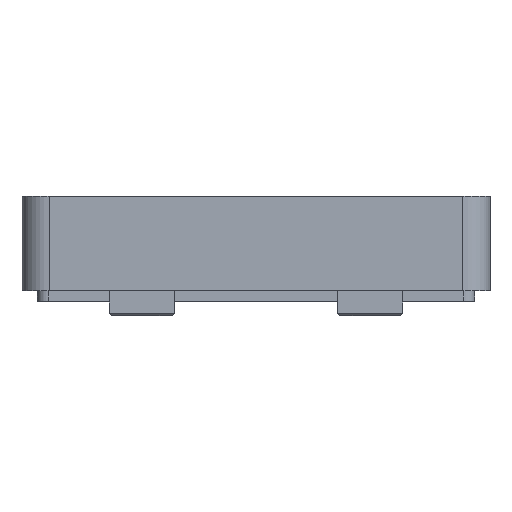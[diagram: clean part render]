
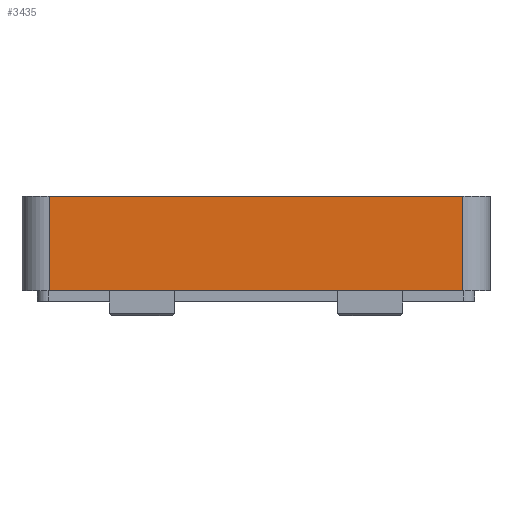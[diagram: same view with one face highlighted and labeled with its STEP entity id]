
A CAD part, front view. The second image highlights one B-rep face of the part: STEP entity #3435.
In plain terms, the highlighted planar face has unit normal (0, -1, 0).
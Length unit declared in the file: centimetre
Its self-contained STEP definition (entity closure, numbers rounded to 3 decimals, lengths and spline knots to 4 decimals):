
#448=FACE_OUTER_BOUND('',#652,.T.);
#652=EDGE_LOOP('',(#3115,#3116,#3117,#3118));
#717=LINE('',#4949,#1050);
#983=LINE('',#6053,#1316);
#990=LINE('',#6075,#1323);
#991=LINE('',#6077,#1324);
#1050=VECTOR('',#3899,1.);
#1316=VECTOR('',#4781,1.);
#1323=VECTOR('',#4812,1.);
#1324=VECTOR('',#4815,1.);
#1373=VERTEX_POINT('',#4946);
#1374=VERTEX_POINT('',#4948);
#1646=VERTEX_POINT('',#6052);
#1649=VERTEX_POINT('',#6073);
#1713=EDGE_CURVE('',#1374,#1373,#717,.T.);
#2132=EDGE_CURVE('',#1374,#1646,#983,.T.);
#2142=EDGE_CURVE('',#1373,#1649,#990,.T.);
#2143=EDGE_CURVE('',#1646,#1649,#991,.T.);
#3115=ORIENTED_EDGE('',*,*,#2142,.T.);
#3116=ORIENTED_EDGE('',*,*,#2143,.F.);
#3117=ORIENTED_EDGE('',*,*,#2132,.F.);
#3118=ORIENTED_EDGE('',*,*,#1713,.T.);
#3250=PLANE('',#3793);
#3435=ADVANCED_FACE('',(#448),#3250,.T.);
#3793=AXIS2_PLACEMENT_3D('',#6076,#4813,#4814);
#3899=DIRECTION('',(1.,0.,0.));
#4781=DIRECTION('',(0.,0.,1.));
#4812=DIRECTION('',(0.,0.,1.));
#4813=DIRECTION('center_axis',(0.,-1.,0.));
#4814=DIRECTION('ref_axis',(1.,0.,0.));
#4815=DIRECTION('',(1.,0.,0.));
#4946=CARTESIAN_POINT('',(3.8,-5.2,2.76));
#4948=CARTESIAN_POINT('',(-3.8,-5.2,2.76));
#4949=CARTESIAN_POINT('',(-3.8,-5.2,2.76));
#6052=CARTESIAN_POINT('',(-3.8,-5.2,4.49));
#6053=CARTESIAN_POINT('',(-3.8,-5.2,2.76));
#6073=CARTESIAN_POINT('',(3.8,-5.2,4.49));
#6075=CARTESIAN_POINT('',(3.8,-5.2,2.76));
#6076=CARTESIAN_POINT('Origin',(-3.8,-5.2,2.76));
#6077=CARTESIAN_POINT('',(-3.8,-5.2,4.49));
